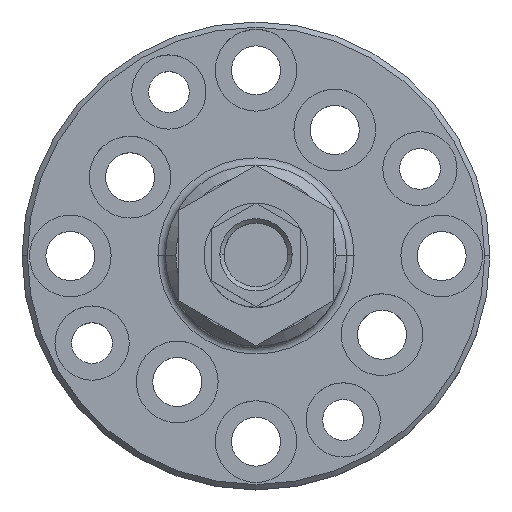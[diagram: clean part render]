
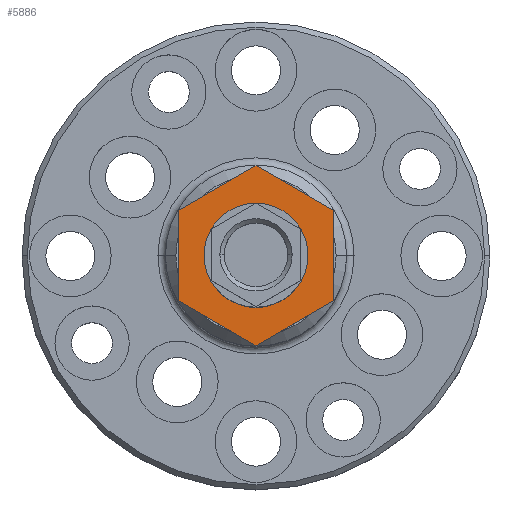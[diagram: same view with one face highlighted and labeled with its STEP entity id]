
A CAD part, top view. The second image highlights one B-rep face of the part: STEP entity #5886.
In plain terms, the highlighted planar face has unit normal (0, 0, 1).
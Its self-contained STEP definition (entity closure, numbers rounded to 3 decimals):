
#80 = DIRECTION ( 'NONE',  ( 0.866, 0.5, 0. ) ) ;
#147 = CARTESIAN_POINT ( 'NONE',  ( -5.25, 9.093, 44. ) ) ;
#158 = CARTESIAN_POINT ( 'NONE',  ( 0., 12.124, 44. ) ) ;
#172 = CARTESIAN_POINT ( 'NONE',  ( 10.5, -6.062, 44. ) ) ;
#181 = LINE ( 'NONE', #1487, #3355 ) ;
#386 = VERTEX_POINT ( 'NONE', #1999 ) ;
#427 = VERTEX_POINT ( 'NONE', #1752 ) ;
#638 = LINE ( 'NONE', #147, #1672 ) ;
#733 = LINE ( 'NONE', #2977, #5432 ) ;
#895 = VERTEX_POINT ( 'NONE', #5645 ) ;
#1001 = VECTOR ( 'NONE', #2844, 1000. ) ;
#1144 = LINE ( 'NONE', #2658, #1001 ) ;
#1164 = EDGE_CURVE ( 'NONE', #3357, #2796, #181, .T. ) ;
#1261 = AXIS2_PLACEMENT_3D ( 'NONE', #3160, #3139, #4406 ) ;
#1487 = CARTESIAN_POINT ( 'NONE',  ( 5.25, 9.093, 44. ) ) ;
#1659 = LINE ( 'NONE', #4147, #4111 ) ;
#1672 = VECTOR ( 'NONE', #80, 1000. ) ;
#1711 = VECTOR ( 'NONE', #5638, 1000. ) ;
#1741 = EDGE_CURVE ( 'NONE', #2796, #2635, #1659, .T. ) ;
#1752 = CARTESIAN_POINT ( 'NONE',  ( 0., -12.124, 44. ) ) ;
#1839 = CARTESIAN_POINT ( 'NONE',  ( 10.5, 6.062, 44. ) ) ;
#1999 = CARTESIAN_POINT ( 'NONE',  ( -10.5, 6.062, 44. ) ) ;
#2137 = EDGE_CURVE ( 'NONE', #2635, #427, #4176, .T. ) ;
#2504 = CARTESIAN_POINT ( 'NONE',  ( 7., 0., 44. ) ) ;
#2559 = EDGE_CURVE ( 'NONE', #386, #3357, #638, .T. ) ;
#2635 = VERTEX_POINT ( 'NONE', #172 ) ;
#2645 = DIRECTION ( 'NONE',  ( 0., 1., 0. ) ) ;
#2658 = CARTESIAN_POINT ( 'NONE',  ( -5.25, -9.093, 44. ) ) ;
#2796 = VERTEX_POINT ( 'NONE', #1839 ) ;
#2844 = DIRECTION ( 'NONE',  ( -0.866, 0.5, 0. ) ) ;
#2977 = CARTESIAN_POINT ( 'NONE',  ( -10.5, 0., 44. ) ) ;
#3098 = DIRECTION ( 'NONE',  ( 1., 0., 0. ) ) ;
#3139 = DIRECTION ( 'NONE',  ( 0., 0., -1. ) ) ;
#3160 = CARTESIAN_POINT ( 'NONE',  ( 0., 0., 44. ) ) ;
#3207 = DIRECTION ( 'NONE',  ( 0., 0., -1. ) ) ;
#3219 = VERTEX_POINT ( 'NONE', #3856 ) ;
#3282 = CIRCLE ( 'NONE', #1261, 7. ) ;
#3312 = CARTESIAN_POINT ( 'NONE',  ( 0., 0., 44. ) ) ;
#3334 = DIRECTION ( 'NONE',  ( 0.866, -0.5, 0. ) ) ;
#3355 = VECTOR ( 'NONE', #3334, 1000. ) ;
#3357 = VERTEX_POINT ( 'NONE', #158 ) ;
#3605 = ORIENTED_EDGE ( 'NONE', *, *, #2137, .F. ) ;
#3751 = EDGE_LOOP ( 'NONE', ( #3605, #3765, #5609, #4359, #5903, #5280 ) ) ;
#3765 = ORIENTED_EDGE ( 'NONE', *, *, #1741, .F. ) ;
#3856 = CARTESIAN_POINT ( 'NONE',  ( -10.5, -6.062, 44. ) ) ;
#4079 = FACE_BOUND ( 'NONE', #5429, .T. ) ;
#4080 = EDGE_CURVE ( 'NONE', #895, #4929, #3282, .T. ) ;
#4105 = DIRECTION ( 'NONE',  ( 0., -1., 0. ) ) ;
#4111 = VECTOR ( 'NONE', #4105, 1000. ) ;
#4114 = EDGE_CURVE ( 'NONE', #3219, #386, #733, .T. ) ;
#4122 = AXIS2_PLACEMENT_3D ( 'NONE', #3312, #3207, #3098 ) ;
#4147 = CARTESIAN_POINT ( 'NONE',  ( 10.5, 0., 44. ) ) ;
#4176 = LINE ( 'NONE', #4740, #1711 ) ;
#4359 = ORIENTED_EDGE ( 'NONE', *, *, #2559, .F. ) ;
#4406 = DIRECTION ( 'NONE',  ( 1., 0., 0. ) ) ;
#4517 = ORIENTED_EDGE ( 'NONE', *, *, #4080, .T. ) ;
#4530 = ORIENTED_EDGE ( 'NONE', *, *, #5710, .T. ) ;
#4558 = DIRECTION ( 'NONE',  ( 1., 0., 0. ) ) ;
#4578 = DIRECTION ( 'NONE',  ( 0., 0., -1. ) ) ;
#4597 = CARTESIAN_POINT ( 'NONE',  ( 0., 0., 44. ) ) ;
#4684 = CIRCLE ( 'NONE', #4122, 7. ) ;
#4740 = CARTESIAN_POINT ( 'NONE',  ( 5.25, -9.093, 44. ) ) ;
#4929 = VERTEX_POINT ( 'NONE', #2504 ) ;
#4933 = PLANE ( 'NONE',  #5167 ) ;
#5037 = EDGE_CURVE ( 'NONE', #427, #3219, #1144, .T. ) ;
#5167 = AXIS2_PLACEMENT_3D ( 'NONE', #4597, #4578, #4558 ) ;
#5280 = ORIENTED_EDGE ( 'NONE', *, *, #5037, .F. ) ;
#5290 = FACE_OUTER_BOUND ( 'NONE', #3751, .T. ) ;
#5429 = EDGE_LOOP ( 'NONE', ( #4530, #4517 ) ) ;
#5432 = VECTOR ( 'NONE', #2645, 1000. ) ;
#5609 = ORIENTED_EDGE ( 'NONE', *, *, #1164, .F. ) ;
#5638 = DIRECTION ( 'NONE',  ( -0.866, -0.5, 0. ) ) ;
#5645 = CARTESIAN_POINT ( 'NONE',  ( -7., 0., 44. ) ) ;
#5710 = EDGE_CURVE ( 'NONE', #4929, #895, #4684, .T. ) ;
#5886 = ADVANCED_FACE ( 'NONE', ( #5290, #4079 ), #4933, .F. ) ;
#5903 = ORIENTED_EDGE ( 'NONE', *, *, #4114, .F. ) ;
